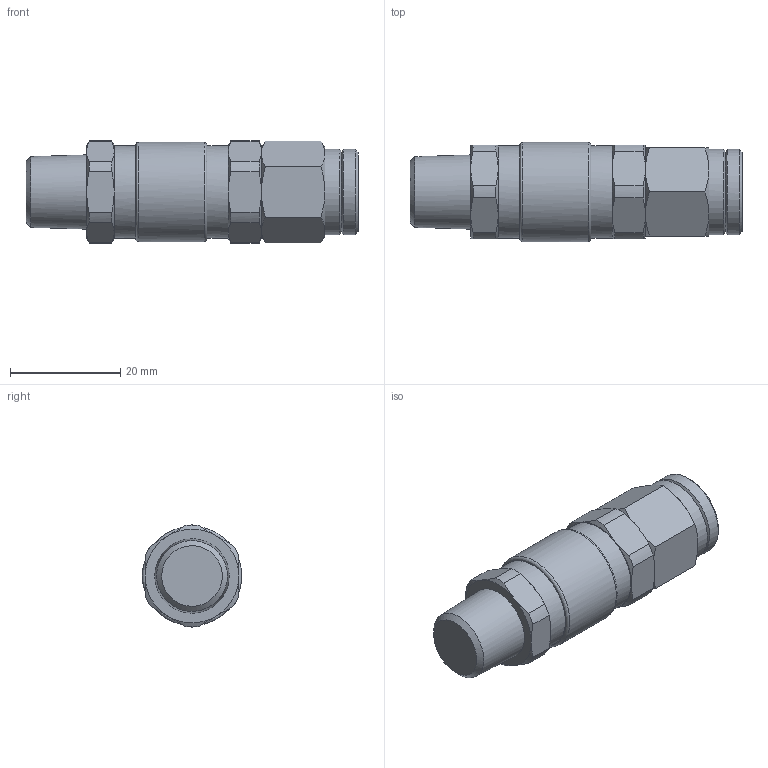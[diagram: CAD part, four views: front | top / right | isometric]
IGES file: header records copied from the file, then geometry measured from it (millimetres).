
Global section: file name: [02] 2FA2M-6.5H; native system: Autodesk Inventor 2014; preprocessor: unknown; author: kazuhiro.t; date: 20130805.153436; units: millimetre
Bounding box: 60.2 x 18 x 18.5 mm (x, y, z)
Volume: 11830.4 mm3; surface area: 5218.5 mm2
Topology: 3 solids, 3 shells, 99 faces, 230 edges, 144 vertices
Faces by surface type: bspline 99
